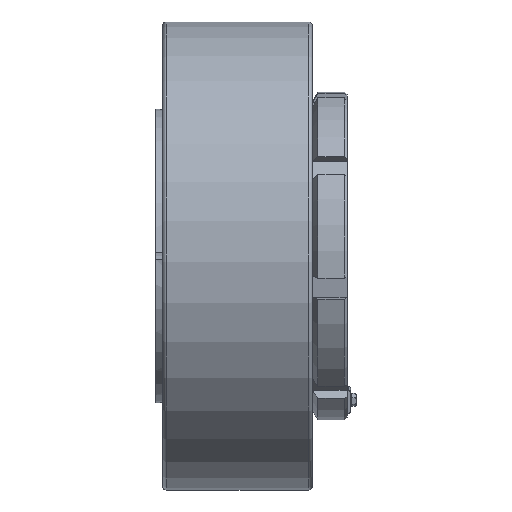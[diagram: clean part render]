
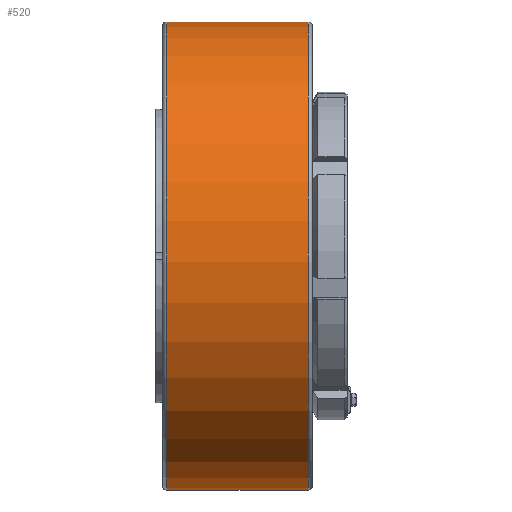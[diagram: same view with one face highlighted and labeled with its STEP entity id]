
A CAD part, front view. The second image highlights one B-rep face of the part: STEP entity #520.
In plain terms, the highlighted cylindrical face has radius 350 mm (diameter 700 mm), a full revolution.
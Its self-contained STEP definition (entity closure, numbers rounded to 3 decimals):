
#520 = ADVANCED_FACE( '', ( #1169, #1170 ), #1171, .T. );
#1169 = FACE_OUTER_BOUND( '', #1942, .T. );
#1170 = FACE_OUTER_BOUND( '', #1943, .T. );
#1171 = CYLINDRICAL_SURFACE( '', #1944, 350. );
#1942 = EDGE_LOOP( '', ( #4076 ) );
#1943 = EDGE_LOOP( '', ( #4077 ) );
#1944 = AXIS2_PLACEMENT_3D( '', #4078, #4079, #4080 );
#4076 = ORIENTED_EDGE( '', *, *, #5532, .T. );
#4077 = ORIENTED_EDGE( '', *, *, #5546, .F. );
#4078 = CARTESIAN_POINT( '', ( 0., 0., 0. ) );
#4079 = DIRECTION( '', ( -1., 0., 0. ) );
#4080 = DIRECTION( '', ( 0., 0., -1. ) );
#5532 = EDGE_CURVE( '', #6788, #6788, #6789, .T. );
#5546 = EDGE_CURVE( '', #6816, #6816, #6817, .T. );
#6788 = VERTEX_POINT( '', #8837 );
#6789 = CIRCLE( '', #8838, 350. );
#6816 = VERTEX_POINT( '', #8865 );
#6817 = CIRCLE( '', #8866, 350. );
#8837 = CARTESIAN_POINT( '', ( -280., 0., -350. ) );
#8838 = AXIS2_PLACEMENT_3D( '', #10400, #10401, #10402 );
#8865 = CARTESIAN_POINT( '', ( -68., 0., -350. ) );
#8866 = AXIS2_PLACEMENT_3D( '', #10442, #10443, #10444 );
#10400 = CARTESIAN_POINT( '', ( -280., 0., 0. ) );
#10401 = DIRECTION( '', ( 1., 0., 0. ) );
#10402 = DIRECTION( '', ( 0., 0., -1. ) );
#10442 = CARTESIAN_POINT( '', ( -68., 0., 0. ) );
#10443 = DIRECTION( '', ( 1., 0., 0. ) );
#10444 = DIRECTION( '', ( 0., 0., -1. ) );
